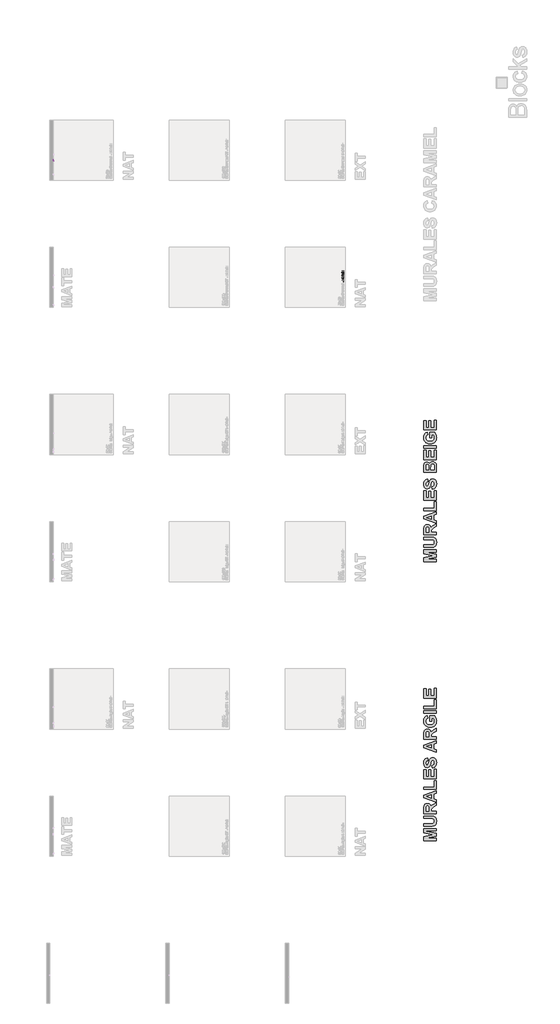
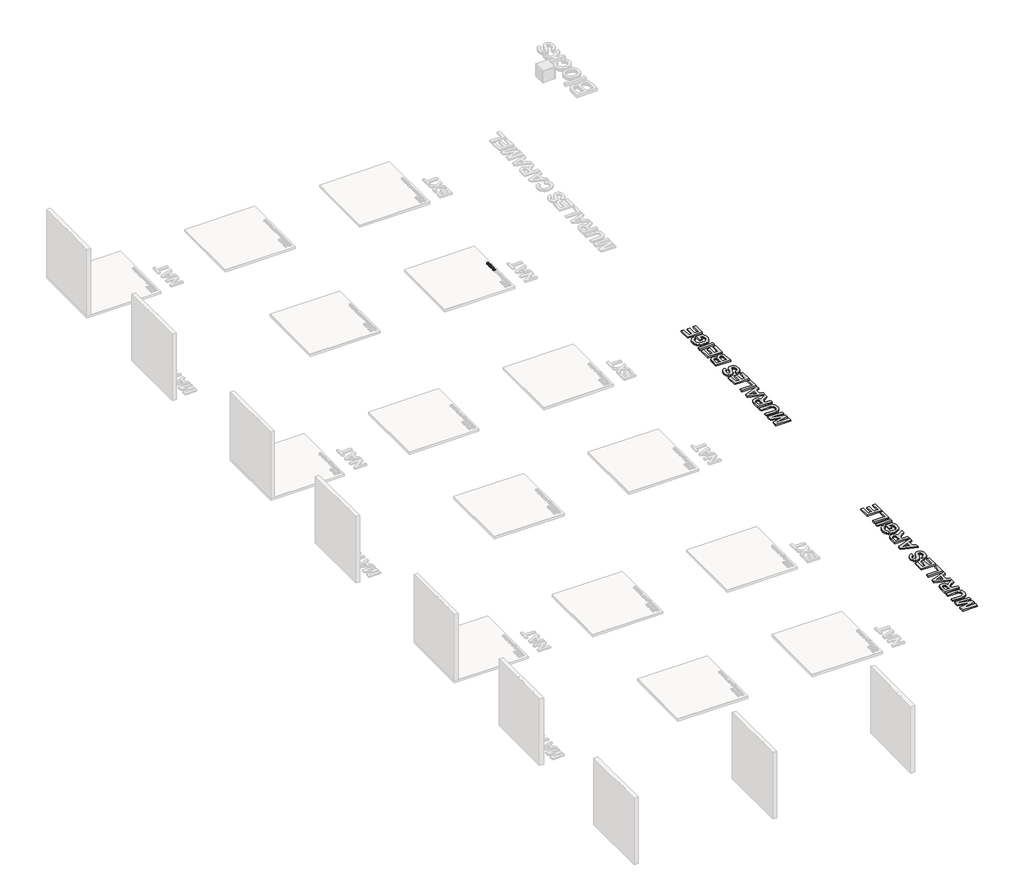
# One storey, part 17 of 21: 4 proxies.
"""IFC4 building model written with IfcOpenShell, lengths in millimetres."""

from ifc_helpers import new_model, si_unit, frame, origin, origin_with_axes, place, context, project, spatial, polyline, outline, extrude, element, save

model = new_model("IFC4")

# Units and contexts
model_context = context("Model", 3, world=origin())
ifc_project = project(units=[si_unit("LENGTHUNIT", "METRE", prefix="MILLI")], contexts=[model_context])

# Site, building, storey
site = spatial("IfcSite", under=ifc_project)
building = spatial("IfcBuilding", under=site)
storey = spatial("IfcBuildingStorey", under=building, Name="PORTOBELLO - SHOWROOM", Elevation=0.0)

# Proxies
placement = place(None, origin())
element("IfcBuildingElementProxy", 1, Name="10mm Arial", ObjectType="10mm Arial", at=placement, inside=storey, context=model_context, shape_type="SweptSolid", body=[
    extrude(outline(polyline([(34960.5312135, 2516.1895903), (34960.5312135, 2616.6459005), (34982.0645729, 2616.6459005), (35002.6659647, 2545.8408792), (35006.8352939, 2531.0520229), (35011.3234543, 2547.0671525), (35031.5324385, 2616.6459005), (35053.1393744, 2616.6459005), (35053.1393744, 2516.1895903), (35040.5823356, 2516.1895903), (35040.5823356, 2604.0888617), (35015.3456308, 2516.1895903), (34998.3494826, 2516.1895903), (34973.0882522, 2604.0888617), (34973.0882522, 2516.1895903), (34960.5312135, 2516.1895903)])), frame((15333.968651, 0.0, 0.0), z_axis=(1.0, 0.0, 0.0), x_axis=(0.0, 1.0, 0.0)), (0.0, 0.0, 1.0), 20.0),
    extrude(outline(polyline([(35120.6334578, 2516.1895903), (35120.6334578, 2528.8692564), (35110.7987458, 2518.1822845), (35097.9719269, 2514.6199605), (35086.1629148, 2517.1215581), (35078.02046, 2523.4000774), (35074.2803264, 2532.6461783), (35073.5445624, 2544.3203002), (35073.5445624, 2589.9621931), (35086.1016012, 2589.9621931), (35086.1016012, 2550.2309376), (35086.8618906, 2537.4286442), (35091.8282975, 2529.9115888), (35101.184763, 2527.1769993), (35111.6693998, 2529.9729024), (35118.5978441, 2537.5880597), (35120.6334578, 2551.5798383), (35120.6334578, 2589.9621931), (35133.1904965, 2589.9621931), (35133.1904965, 2516.1895903), (35120.6334578, 2516.1895903)])), frame((15333.968651, 0.0, 0.0), z_axis=(1.0, 0.0, 0.0), x_axis=(0.0, 1.0, 0.0)), (0.0, 0.0, 1.0), 20.0),
    extrude(outline(polyline([(35150.4564248, 2516.1895903), (35150.4564248, 2589.9621931), (35161.4438338, 2589.9621931), (35161.4438338, 2579.0483606), (35169.2429321, 2589.1038018), (35177.0910813, 2591.531823), (35189.697171, 2587.6567993), (35185.5033163, 2576.3996102), (35176.6741484, 2578.9747842), (35169.5740259, 2576.4977121), (35165.0490773, 2569.6305815), (35163.0134636, 2554.9643526), (35163.0134636, 2516.1895903), (35150.4564248, 2516.1895903)])), frame((15333.968651, 0.0, 0.0), z_axis=(1.0, 0.0, 0.0), x_axis=(0.0, 1.0, 0.0)), (0.0, 0.0, 1.0), 20.0),
    extrude(outline(polyline([(35244.6342156, 2525.6073694), (35232.4573216, 2517.0970326), (35219.0051033, 2514.6199605), (35208.5112694, 2516.1098826), (35200.7704191, 2520.5796488), (35195.9971502, 2527.3670716), (35194.4060605, 2535.8099634), (35196.8095562, 2545.7427773), (35203.1248638, 2552.9532644), (35211.9172435, 2557.0735427), (35222.7820251, 2558.9620036), (35244.5606392, 2563.2784857), (35244.6342156, 2566.0743889), (35241.1761249, 2575.3450152), (35227.2947109, 2578.9747842), (35214.5905193, 2576.5590258), (35208.5327292, 2567.9873753), (35195.9756904, 2569.5570051), (35201.4080812, 2581.8197383), (35212.3464392, 2589.0056999), (35228.9133917, 2591.531823), (35244.1314436, 2589.3000055), (35252.7276195, 2583.6959365), (35256.5781177, 2575.1733369), (35257.1912544, 2564.185928), (35257.1912544, 2548.5632059), (35257.8289165, 2526.7478036), (35260.3305141, 2516.1895903), (35247.7734753, 2516.1895903), (35244.6342156, 2525.6073694)]), holes=[polyline([(35244.6342156, 2550.721447), (35224.3761804, 2546.8709487), (35213.5727125, 2544.835335), (35208.6798819, 2541.5243971), (35206.9630993, 2536.6928802), (35210.7032329, 2529.899326), (35221.6783791, 2527.1769993), (35234.3825707, 2530.1813689), (35242.5740764, 2537.4531697), (35244.5606392, 2547.1652543), (35244.6342156, 2550.721447)])]), frame((15333.968651, 0.0, 0.0), z_axis=(1.0, 0.0, 0.0), x_axis=(0.0, 1.0, 0.0)), (0.0, 0.0, 1.0), 20.0),
    extrude(outline(polyline([(15353.968651, 35287.0142215), (15353.968651, 35274.4571827), (15333.968651, 35274.4571827), (15333.968651, 35287.0142215), (15353.968651, 35287.0142215)])), frame((0.0, 0.0, 2516.1895903), z_axis=(0.0, 0.0, 1.0), x_axis=(1.0, 0.0, 0.0)), (0.0, 0.0, 1.0), 100.4563101),
    extrude(outline(polyline([(35357.5004117, 2538.1644082), (35369.8121958, 2536.5947783), (35365.3761521, 2527.3180207), (35358.2974894, 2520.3834451), (35348.7356232, 2516.0608316), (35336.8499691, 2514.6199605), (35322.1162952, 2517.1062296), (35310.7793983, 2524.5650371), (35303.5505171, 2536.5120049), (35301.1408901, 2552.4627551), (35303.5750426, 2568.9499998), (35310.8775002, 2581.280178), (35322.0611129, 2588.9689117), (35336.1387305, 2591.531823), (35349.7779555, 2588.9750431), (35360.6764596, 2581.3047035), (35367.8225674, 2568.9990508), (35370.2046033, 2552.5363315), (35370.1310269, 2549.1518171), (35313.6979288, 2549.1518171), (35315.8714983, 2539.7524321), (35320.9206787, 2532.842382), (35328.2078079, 2528.5933449), (35337.0952237, 2527.1769993), (35349.4070078, 2529.8012242), (35357.5004117, 2538.1644082)]), holes=[polyline([(35313.6979288, 2561.7088559), (35357.6475645, 2561.7088559), (35352.6198439, 2573.0886723), (35345.2989922, 2577.5032562), (35336.0896796, 2578.9747842), (35320.6263731, 2574.2781574), (35315.7611337, 2568.7875186), (35313.6979288, 2561.7088559)])]), frame((15333.968651, 0.0, 0.0), z_axis=(1.0, 0.0, 0.0), x_axis=(0.0, 1.0, 0.0)), (0.0, 0.0, 1.0), 20.0),
    extrude(outline(polyline([(35494.2053611, 2551.8986693), (35506.7623999, 2548.6613078), (35500.9682585, 2534.0288014), (35491.8754418, 2523.3387638), (35479.9315397, 2516.7996613), (35465.5841419, 2514.6199605), (35451.0190806, 2516.2692981), (35439.4522575, 2521.2173109), (35430.5863014, 2529.2923207), (35424.1238411, 2540.3226492), (35418.8631285, 2567.1780349), (35420.3499849, 2581.8258696), (35424.8105541, 2594.4748789), (35432.0118442, 2604.7234582), (35441.7208632, 2612.1700029), (35453.2355696, 2616.7041485), (35465.853922, 2618.2155303), (35479.6219057, 2616.2596244), (35491.0047878, 2610.3919066), (35499.646949, 2600.9741275), (35505.1927701, 2588.3680378), (35492.6357313, 2585.3759309), (35482.3350354, 2600.814712), (35465.3634127, 2605.6584916), (35445.7185142, 2600.2874144), (35434.6207407, 2585.8664402), (35431.4201673, 2567.2025603), (35435.2093518, 2545.571099), (35447.0061012, 2531.7509987), (35464.3333431, 2527.1769993), (35474.8149143, 2528.7343664), (35483.549046, 2533.4064677), (35490.1433308, 2541.1442523), (35494.2053611, 2551.8986693)])), frame((15333.968651, 0.0, 0.0), z_axis=(1.0, 0.0, 0.0), x_axis=(0.0, 1.0, 0.0)), (0.0, 0.0, 1.0), 20.0),
    extrude(outline(polyline([(35569.5475938, 2525.6073694), (35557.3706997, 2517.0970326), (35543.9184814, 2514.6199605), (35533.4246475, 2516.1098826), (35525.6837972, 2520.5796488), (35520.9105283, 2527.3670716), (35519.3194387, 2535.8099634), (35521.7229344, 2545.7427773), (35528.038242, 2552.9532644), (35536.8306216, 2557.0735427), (35547.6954032, 2558.9620036), (35569.4740174, 2563.2784857), (35569.5475938, 2566.0743889), (35566.089503, 2575.3450152), (35552.208089, 2578.9747842), (35539.5038975, 2576.5590258), (35533.4461073, 2567.9873753), (35520.8890685, 2569.5570051), (35526.3214593, 2581.8197383), (35537.2598173, 2589.0056999), (35553.8267698, 2591.531823), (35569.0448217, 2589.3000055), (35577.6409976, 2583.6959365), (35581.4914959, 2575.1733369), (35582.1046325, 2564.185928), (35582.1046325, 2548.5632059), (35582.7422946, 2526.7478036), (35585.2438922, 2516.1895903), (35572.6868534, 2516.1895903), (35569.5475938, 2525.6073694)]), holes=[polyline([(35569.5475938, 2550.721447), (35549.2895586, 2546.8709487), (35538.4860906, 2544.835335), (35533.5932601, 2541.5243971), (35531.8764774, 2536.6928802), (35535.6166111, 2529.899326), (35546.5917573, 2527.1769993), (35559.2959488, 2530.1813689), (35567.4874546, 2537.4531697), (35569.4740174, 2547.1652543), (35569.5475938, 2550.721447)])]), frame((15333.968651, 0.0, 0.0), z_axis=(1.0, 0.0, 0.0), x_axis=(0.0, 1.0, 0.0)), (0.0, 0.0, 1.0), 20.0),
    extrude(outline(polyline([(35599.3705608, 2516.1895903), (35599.3705608, 2589.9621931), (35610.3579698, 2589.9621931), (35610.3579698, 2579.0483606), (35618.157068, 2589.1038018), (35626.0052173, 2591.531823), (35638.611307, 2587.6567993), (35634.4174522, 2576.3996102), (35625.5882844, 2578.9747842), (35618.4881618, 2576.4977121), (35613.9632133, 2569.6305815), (35611.9275996, 2554.9643526), (35611.9275996, 2516.1895903), (35599.3705608, 2516.1895903)])), frame((15333.968651, 0.0, 0.0), z_axis=(1.0, 0.0, 0.0), x_axis=(0.0, 1.0, 0.0)), (0.0, 0.0, 1.0), 20.0),
    extrude(outline(polyline([(35693.5483516, 2525.6073694), (35681.3714576, 2517.0970326), (35667.9192393, 2514.6199605), (35657.4254053, 2516.1098826), (35649.684555, 2520.5796488), (35644.9112861, 2527.3670716), (35643.3201965, 2535.8099634), (35645.7236922, 2545.7427773), (35652.0389998, 2552.9532644), (35660.8313795, 2557.0735427), (35671.6961611, 2558.9620036), (35693.4747752, 2563.2784857), (35693.5483516, 2566.0743889), (35690.0902608, 2575.3450152), (35676.2088469, 2578.9747842), (35663.5046553, 2576.5590258), (35657.4468651, 2567.9873753), (35644.8898264, 2569.5570051), (35650.3222172, 2581.8197383), (35661.2605751, 2589.0056999), (35677.8275277, 2591.531823), (35693.0455795, 2589.3000055), (35701.6417555, 2583.6959365), (35705.4922537, 2575.1733369), (35706.1053904, 2564.185928), (35706.1053904, 2548.5632059), (35706.7430525, 2526.7478036), (35709.2446501, 2516.1895903), (35696.6876113, 2516.1895903), (35693.5483516, 2525.6073694)]), holes=[polyline([(35693.5483516, 2550.721447), (35673.2903164, 2546.8709487), (35662.4868485, 2544.835335), (35657.5940179, 2541.5243971), (35655.8772353, 2536.6928802), (35659.6173689, 2529.899326), (35670.5925151, 2527.1769993), (35683.2967067, 2530.1813689), (35691.4882124, 2537.4531697), (35693.4747752, 2547.1652543), (35693.5483516, 2550.721447)])]), frame((15333.968651, 0.0, 0.0), z_axis=(1.0, 0.0, 0.0), x_axis=(0.0, 1.0, 0.0)), (0.0, 0.0, 1.0), 20.0),
    extrude(outline(polyline([(35723.3713187, 2516.1895903), (35723.3713187, 2589.9621931), (35735.9283574, 2589.9621931), (35735.9283574, 2577.8220873), (35744.5613216, 2587.7671639), (35756.8485802, 2591.531823), (35769.4301445, 2587.6935875), (35776.346326, 2576.9391705), (35786.1442498, 2587.8836598), (35798.5173476, 2591.531823), (35807.9565864, 2590.0143097), (35814.9371473, 2585.46177), (35819.2505637, 2577.7515766), (35820.6883691, 2566.7611019), (35820.6883691, 2516.1895903), (35808.1313304, 2516.1895903), (35808.1313304, 2561.3654994), (35806.9663707, 2571.8501362), (35802.7479905, 2577.0127469), (35795.5742916, 2578.9747842), (35783.2257193, 2573.9470636), (35779.5377023, 2567.4048954), (35778.3083633, 2557.8338322), (35778.3083633, 2516.1895903), (35765.7513245, 2516.1895903), (35765.7513245, 2562.7634509), (35762.8450568, 2574.9280822), (35753.3169131, 2578.9747842), (35744.0217613, 2576.2769829), (35737.8413438, 2568.3797827), (35735.9283574, 2553.3947228), (35735.9283574, 2516.1895903), (35723.3713187, 2516.1895903)])), frame((15333.968651, 0.0, 0.0), z_axis=(1.0, 0.0, 0.0), x_axis=(0.0, 1.0, 0.0)), (0.0, 0.0, 1.0), 20.0),
    extrude(outline(polyline([(35891.1745594, 2538.1644082), (35903.4863435, 2536.5947783), (35899.0502998, 2527.3180207), (35891.9716371, 2520.3834451), (35882.4097709, 2516.0608316), (35870.5241167, 2514.6199605), (35855.7904428, 2517.1062296), (35844.453546, 2524.5650371), (35837.2246648, 2536.5120049), (35834.8150377, 2552.4627551), (35837.2491903, 2568.9499998), (35844.5516479, 2581.280178), (35855.7352605, 2588.9689117), (35869.8128782, 2591.531823), (35883.4521032, 2588.9750431), (35894.3506073, 2581.3047035), (35901.496715, 2568.9990508), (35903.878751, 2552.5363315), (35903.8051746, 2549.1518171), (35847.3720765, 2549.1518171), (35849.545646, 2539.7524321), (35854.5948263, 2532.842382), (35861.8819555, 2528.5933449), (35870.7693714, 2527.1769993), (35883.0811555, 2529.8012242), (35891.1745594, 2538.1644082)]), holes=[polyline([(35847.3720765, 2561.7088559), (35891.3217122, 2561.7088559), (35886.2939916, 2573.0886723), (35878.9731399, 2577.5032562), (35869.7638273, 2578.9747842), (35854.3005208, 2574.2781574), (35849.4352814, 2568.7875186), (35847.3720765, 2561.7088559)])]), frame((15333.968651, 0.0, 0.0), z_axis=(1.0, 0.0, 0.0), x_axis=(0.0, 1.0, 0.0)), (0.0, 0.0, 1.0), 20.0),
    extrude(outline(polyline([(15353.968651, 35928.9928285), (15353.968651, 35916.4357897), (15333.968651, 35916.4357897), (15333.968651, 35928.9928285), (15353.968651, 35928.9928285)])), frame((0.0, 0.0, 2516.1895903), z_axis=(0.0, 0.0, 1.0), x_axis=(1.0, 0.0, 0.0)), (0.0, 0.0, 1.0), 100.4563101),
])
element("IfcBuildingElementProxy", 2, Name="10mm Arial Narrow", ObjectType="10mm Arial Narrow", at=placement, inside=storey, context=model_context, shape_type="SweptSolid", body=[
    extrude(outline(polyline([(28359.4625095, 30324.588476), (28258.7439058, 30324.588476), (28258.7439058, 30355.8853607), (28260.6222265, 30372.1810622), (28270.1026697, 30383.6540483), (28287.1217785, 30387.9437267), (28299.197604, 30386.1574183), (28308.8239978, 30380.7984931), (28315.1252562, 30371.0547043), (28317.2256757, 30356.1138051), (28317.2256757, 30334.3354376), (28359.4625095, 30334.3354376), (28359.4625095, 30324.588476)]), holes=[polyline([(28305.8542204, 30334.3354376), (28305.8542204, 30357.3067926), (28301.3234062, 30373.170988), (28287.6548155, 30378.1967651), (28277.4890391, 30375.7219506), (28271.6890892, 30369.7443218), (28270.115361, 30357.0783482), (28270.115361, 30334.3354376), (28305.8542204, 30334.3354376)])]), frame((0.0, 0.0, 18.0), z_axis=(0.0, 0.0, 1.0), x_axis=(1.0, 0.0, 0.0)), (0.0, 0.0, 1.0), 20.0),
    extrude(outline(polyline([(28322.9114033, 30396.0661948), (28306.3206278, 30398.0206637), (28294.368543, 30403.8840703), (28287.1439884, 30412.742637), (28284.7358035, 30423.6825861), (28287.1439884, 30434.4956217), (28294.368543, 30443.3795711), (28306.1302574, 30449.3191259), (28322.149922, 30451.2989775), (28339.3118085, 30449.3540271), (28351.4542637, 30443.5191761), (28358.6788183, 30434.6701279), (28361.0870031, 30423.6825861), (28358.6724726, 30412.821958), (28351.428881, 30403.9475271), (28339.4704505, 30398.0365278), (28322.9114033, 30396.0661948)]), holes=[polyline([(28322.8860206, 30405.8131564), (28335.437772, 30407.1171933), (28344.3090301, 30411.0293039), (28349.5822886, 30416.8705006), (28351.3400415, 30423.961796), (28349.5664244, 30430.6818691), (28344.2455733, 30436.3739424), (28335.358451, 30440.2574975), (28322.8860206, 30441.5520158), (28310.3723433, 30440.247979), (28301.5137766, 30436.3358684), (28296.240518, 30430.4946716), (28294.4827652, 30423.4033763), (28296.2500365, 30416.6357105), (28301.5518506, 30410.9531557), (28310.4199359, 30407.0981563), (28322.8860206, 30405.8131564)])]), frame((0.0, 0.0, 18.0), z_axis=(0.0, 0.0, 1.0), x_axis=(1.0, 0.0, 0.0)), (0.0, 0.0, 1.0), 20.0),
    extrude(outline(polyline([(28351.3400415, 30522.7766963), (28361.0870031, 30524.4011899), (28361.0870031, 30517.0402032), (28358.9675466, 30508.7654389), (28353.1675968, 30504.4503777), (28338.5217716, 30503.282773), (28296.1072588, 30503.282773), (28296.1072588, 30495.1603049), (28292.8582716, 30495.1603049), (28297.7317524, 30493.5358113), (28296.1072588, 30485.9717629), (28298.429777, 30479.8926033), (28304.9150601, 30476.0217396), (28320.3223666, 30474.041888), (28359.4625095, 30474.041888), (28359.4625095, 30464.2949264), (28286.3602971, 30464.2949264), (28286.3602971, 30474.041888), (28296.0564934, 30474.041888), (28286.9694822, 30480.2860353), (28284.7358035, 30486.6824789), (28286.3602971, 30495.1603049), (28286.3602971, 30503.282773), (28270.115361, 30503.282773), (28261.992893, 30513.0297346), (28286.3602971, 30513.0297346), (28286.3602971, 30522.7766963), (28296.1072588, 30522.7766963), (28296.1072588, 30513.0297346), (28340.7554503, 30513.0297346), (28348.7510048, 30513.8927468), (28351.3400415, 30518.5124006), (28351.3400415, 30522.7766963)])), frame((0.0, 0.0, 18.0), z_axis=(0.0, 0.0, 1.0), x_axis=(1.0, 0.0, 0.0)), (0.0, 0.0, 1.0), 20.0),
    extrude(outline(polyline([(28322.9114033, 30529.2746707), (28306.3206278, 30531.2291396), (28294.368543, 30537.0925462), (28287.1439884, 30545.9511129), (28284.7358035, 30556.8910621), (28287.1439884, 30567.7040976), (28294.368543, 30576.5880471), (28306.1302574, 30582.5276018), (28322.149922, 30584.5074534), (28339.3118085, 30582.5625031), (28351.4542637, 30576.727652), (28358.6788183, 30567.8786038), (28361.0870031, 30556.8910621), (28358.6724726, 30546.0304339), (28351.428881, 30537.156003), (28339.4704505, 30531.2450038), (28322.9114033, 30529.2746707)]), holes=[polyline([(28322.8860206, 30539.0216324), (28335.437772, 30540.3256692), (28344.3090301, 30544.2377798), (28349.5822886, 30550.0789766), (28351.3400415, 30557.1702719), (28349.5664244, 30563.8903451), (28344.2455733, 30569.5824184), (28335.358451, 30573.4659734), (28322.8860206, 30574.7604918), (28310.3723433, 30573.4564549), (28301.5137766, 30569.5443443), (28296.240518, 30563.7031476), (28294.4827652, 30556.6118522), (28296.2500365, 30549.8441865), (28301.5518506, 30544.1616317), (28310.4199359, 30540.3066322), (28322.8860206, 30539.0216324)])]), frame((0.0, 0.0, 18.0), z_axis=(0.0, 0.0, 1.0), x_axis=(1.0, 0.0, 0.0)), (0.0, 0.0, 1.0), 20.0),
    extrude(outline(polyline([(28359.4625095, 30607.2503639), (28359.4625095, 30597.5034023), (28258.7439058, 30597.5034023), (28258.7439058, 30607.2503639), (28294.1527899, 30607.2503639), (28287.0710131, 30614.6494247), (28284.7358035, 30623.850658), (28288.9366425, 30636.7323847), (28301.6660729, 30646.0097661), (28322.3529837, 30649.4871978), (28338.8073271, 30647.5549388), (28351.0100662, 30641.7581618), (28358.5677689, 30633.3850394), (28361.0870031, 30623.7237444), (28358.4725837, 30614.3829062), (28350.7054737, 30607.2503639), (28359.4625095, 30607.2503639)]), holes=[polyline([(28322.3529837, 30607.2503639), (28339.6005369, 30609.3317464), (28348.33219, 30615.2205357), (28351.3400415, 30623.672979), (28349.5505602, 30629.6157066), (28344.1821165, 30634.8540639), (28322.7591071, 30639.7402361), (28301.3234062, 30635.0317429), (28296.1929254, 30629.7870399), (28294.4827652, 30623.4699173), (28296.2722464, 30617.4922885), (28301.6406901, 30612.1999929), (28322.3529837, 30607.2503639)])]), frame((0.0, 0.0, 18.0), z_axis=(0.0, 0.0, 1.0), x_axis=(1.0, 0.0, 0.0)), (0.0, 0.0, 1.0), 20.0),
    extrude(outline(polyline([(28336.719599, 30701.4709933), (28338.3440926, 30711.2179549), (28348.2306592, 30707.5184245), (28355.3505101, 30701.6994377), (28359.6528799, 30693.9957844), (28361.0870031, 30684.6422548), (28358.6724726, 30673.0487008), (28351.428881, 30663.9045785), (28339.6227468, 30657.9650238), (28323.5205884, 30655.9851722), (28306.8536647, 30657.9745423), (28294.6731355, 30663.9426526), (28287.2201365, 30672.9566884), (28284.7358035, 30684.0838351), (28287.1344699, 30694.7667843), (28294.3304689, 30703.5143016), (28306.0699735, 30709.3491527), (28322.0991565, 30711.294103), (28325.3481437, 30711.2179549), (28325.3481437, 30665.7321339), (28344.7913016, 30671.7351454), (28349.7028565, 30677.6651816), (28351.3400415, 30684.7691683), (28347.6849309, 30694.9476361), (28336.719599, 30701.4709933)]), holes=[polyline([(28315.6011821, 30666.3920844), (28315.6011821, 30701.4709933), (28301.3360976, 30697.2066975), (28296.1960983, 30691.381365), (28294.4827652, 30684.1599832), (28300.1938755, 30671.9508985), (28315.6011821, 30666.3920844)])]), frame((0.0, 0.0, 18.0), z_axis=(0.0, 0.0, 1.0), x_axis=(1.0, 0.0, 0.0)), (0.0, 0.0, 1.0), 20.0),
    extrude(outline(polyline([(28359.4625095, 30724.2139038), (28258.7439058, 30724.2139038), (28258.7439058, 30733.9608654), (28359.4625095, 30733.9608654), (28359.4625095, 30724.2139038)])), frame((0.0, 0.0, 18.0), z_axis=(0.0, 0.0, 1.0), x_axis=(1.0, 0.0, 0.0)), (0.0, 0.0, 1.0), 20.0),
    extrude(outline(polyline([(28359.4625095, 30750.2058015), (28258.7439058, 30750.2058015), (28258.7439058, 30759.9527632), (28359.4625095, 30759.9527632), (28359.4625095, 30750.2058015)])), frame((0.0, 0.0, 18.0), z_axis=(0.0, 0.0, 1.0), x_axis=(1.0, 0.0, 0.0)), (0.0, 0.0, 1.0), 20.0),
    extrude(outline(polyline([(28322.9114033, 30771.3242184), (28306.3206278, 30773.2786873), (28294.368543, 30779.1420939), (28287.1439884, 30788.0006606), (28284.7358035, 30798.9406098), (28287.1439884, 30809.7536454), (28294.368543, 30818.6375948), (28306.1302574, 30824.5771496), (28322.149922, 30826.5570011), (28339.3118085, 30824.6120508), (28351.4542637, 30818.7771997), (28358.6788183, 30809.9281515), (28361.0870031, 30798.9406098), (28358.6724726, 30788.0799816), (28351.428881, 30779.2055507), (28339.4704505, 30773.2945515), (28322.9114033, 30771.3242184)]), holes=[polyline([(28322.8860206, 30781.0711801), (28335.437772, 30782.375217), (28344.3090301, 30786.2873275), (28349.5822886, 30792.1285243), (28351.3400415, 30799.2198196), (28349.5664244, 30805.9398928), (28344.2455733, 30811.6319661), (28335.358451, 30815.5155211), (28322.8860206, 30816.8100395), (28310.3723433, 30815.5060026), (28301.5137766, 30811.593892), (28296.240518, 30805.7526953), (28294.4827652, 30798.6614), (28296.2500365, 30791.8937342), (28301.5518506, 30786.2111794), (28310.4199359, 30782.3561799), (28322.8860206, 30781.0711801)])]), frame((0.0, 0.0, 18.0), z_axis=(0.0, 0.0, 1.0), x_axis=(1.0, 0.0, 0.0)), (0.0, 0.0, 1.0), 20.0),
])
element("IfcBuildingElementProxy", 3, Name="550mm Arial", ObjectType="550mm Arial", at=placement, inside=storey, context=model_context, shape_type="SweptSolid", body=[
    extrude(outline(polyline([(32506.24187, 5273.3939829), (31945.0992, 5273.3939829), (31945.0992, 5456.2663709), (32327.8229952, 5545.0582914), (31945.0992, 5633.5718673), (31945.0992, 5816.7225999), (32506.24187, 5816.7225999), (32506.24187, 5709.8382818), (32064.5090241, 5705.3847686), (32506.24187, 5607.6858215), (32506.24187, 5482.7091059), (32064.5090241, 5384.7318143), (32506.24187, 5380.278301), (32506.24187, 5273.3939829)])), origin_with_axes(), (0.0, 0.0, 1.0), 50.0),
    extrude(outline(polyline([(31945.0992, 5923.606918), (31945.0992, 6030.4912361), (32247.798929, 6030.4912361), (32307.2254964, 6031.6394075), (32341.3227073, 6035.0839216), (32372.2015589, 6048.4792545), (32396.3653477, 6072.799612), (32405.4680852, 6089.056675), (32411.9700406, 6108.0449942), (32417.1716049, 6154.2154012), (32412.2657817, 6200.3336185), (32406.1335027, 6218.5260462), (32397.5483121, 6233.4740198), (32375.6808662, 6254.8195697), (32349.3251139, 6265.5532325), (32311.2788894, 6269.624022), (32254.3400265, 6270.9809518), (31945.0992, 6270.9809518), (31945.0992, 6377.8652699), (32239.4485916, 6377.8652699), (32325.6310317, 6375.534134), (32382.100188, 6368.5407265), (32420.4943433, 6355.284566), (32452.4517802, 6334.1651711), (32478.2508433, 6304.8868007), (32498.1698772, 6267.1537138), (32510.9041416, 6218.7739468), (32515.1488965, 6157.5555361), (32510.5214179, 6085.8470141), (32504.7370696, 6057.3775827), (32496.638982, 6033.831371), (32475.3456218, 5996.0808876), (32448.48537, 5967.1678445), (32418.1110178, 5946.8486903), (32386.2753567, 5934.8798734), (32326.6400308, 5926.4251568), (32244.0412771, 5923.606918), (31945.0992, 5923.606918)])), origin_with_axes(), (0.0, 0.0, 1.0), 50.0),
    extrude(outline(polyline([(32506.24187, 6484.749588), (31945.0992, 6484.749588), (31945.0992, 6720.7857904), (31948.8916449, 6797.6784802), (31960.2689795, 6850.2160194), (31969.3325748, 6869.3870022), (31981.3535813, 6886.5399868), (31996.3319989, 6901.6749733), (32014.2678277, 6914.7919615), (32034.3869218, 6925.386452), (32055.9151352, 6932.9539453), (32078.8524682, 6937.4944412), (32103.1989205, 6939.0079398), (32133.5471778, 6936.8203254), (32161.1293859, 6930.2574822), (32185.9455447, 6919.3194101), (32207.9956542, 6904.0061091), (32226.7491202, 6884.3349759), (32241.6753482, 6860.3234069), (32252.7743383, 6831.9714021), (32260.0460904, 6799.2789615), (32282.3832428, 6830.2795889), (32306.8079796, 6855.3653941), (32342.1925341, 6881.321026), (32397.4091398, 6914.9311338), (32506.24187, 6983.5430724), (32506.24187, 6858.705529), (32378.0641916, 6777.4289121), (32302.0065356, 6713.6184175), (32288.8025647, 6695.9087437), (32280.5044169, 6677.1552778), (32276.1204898, 6652.2608345), (32274.6591808, 6616.1282289), (32274.6591808, 6591.6339061), (32506.24187, 6591.6339061), (32506.24187, 6484.749588)]), holes=[polyline([(32176.6818892, 6591.6339061), (32176.6818892, 6679.7299651), (32175.0640113, 6749.2639201), (32170.2103777, 6786.6838693), (32161.4077304, 6805.7156799), (32147.9428115, 6820.0852187), (32130.1809481, 6829.114021), (32108.4874675, 6832.1236218), (32084.4628511, 6828.1572115), (32065.5528163, 6816.2579808), (32052.209673, 6797.121791), (32044.8857313, 6771.4445037), (32043.0764916, 6684.6009952), (32043.0764916, 6591.6339061), (32176.6818892, 6591.6339061)])]), origin_with_axes(), (0.0, 0.0, 1.0), 50.0),
    extrude(outline(polyline([(32506.24187, 7517.9646628), (32506.24187, 7405.6526255), (32381.5434989, 7361.6741821), (32381.5434989, 7149.853958), (32506.24187, 7106.4322037), (32506.24187, 6992.4500989), (31945.0992, 7197.033364), (31945.0992, 7311.1546411), (32506.24187, 7517.9646628)]), holes=[polyline([(32283.5662073, 7327.437799), (32078.7045976, 7255.2073809), (32283.5662073, 7183.9511688), (32283.5662073, 7327.437799)])]), origin_with_axes(), (0.0, 0.0, 1.0), 50.0),
    extrude(outline(polyline([(32506.24187, 7571.4068219), (31945.0992, 7571.4068219), (31945.0992, 7678.29114), (32408.2645784, 7678.29114), (32408.2645784, 7963.3159882), (32506.24187, 7963.3159882), (32506.24187, 7571.4068219)])), origin_with_axes(), (0.0, 0.0, 1.0), 50.0),
    extrude(outline(polyline([(32506.24187, 8043.4792268), (31945.0992, 8043.4792268), (31945.0992, 8462.1094726), (32043.0764916, 8462.1094726), (32043.0764916, 8150.3635449), (32167.7748627, 8150.3635449), (32167.7748627, 8444.2954196), (32265.7521543, 8444.2954196), (32265.7521543, 8150.3635449), (32408.2645784, 8150.3635449), (32408.2645784, 8471.0164991), (32506.24187, 8471.0164991), (32506.24187, 8043.4792268)])), origin_with_axes(), (0.0, 0.0, 1.0), 50.0),
    extrude(outline(polyline([(32319.1943133, 8533.3656847), (32310.2872868, 8640.2500028), (32336.0167638, 8646.7215142), (32358.0929681, 8655.8372992), (32376.5158999, 8667.5973576), (32391.2855591, 8682.0016895), (32402.6107041, 8699.0937863), (32410.7000934, 8718.9171393), (32415.553727, 8741.4717484), (32417.1716049, 8766.7576137), (32415.7407398, 8793.3308226), (32411.4481445, 8816.4073278), (32404.293819, 8835.9871293), (32394.2777633, 8852.0702269), (32382.3480887, 8864.6131295), (32369.4529062, 8873.5723456), (32355.5922161, 8878.9478753), (32340.7660181, 8880.7397185), (32322.5866379, 8877.7649108), (32307.2950826, 8868.8404878), (32294.3694562, 8852.4703473), (32283.2878627, 8827.1583872), (32259.4894012, 8734.4696426), (32247.8772134, 8691.4480087), (32234.8906991, 8655.3501962), (32220.5298585, 8626.176205), (32204.7946916, 8603.9260353), (32180.4308427, 8580.8495301), (32153.5444961, 8564.3663121), (32124.1356517, 8554.4763813), (32092.2043096, 8551.1797377), (32050.8701398, 8557.2337323), (32012.3194157, 8575.395716), (31994.8445951, 8588.8432385), (31979.5791346, 8604.9698275), (31966.5230343, 8623.7754831), (31955.676294, 8645.2602052), (31941.0632036, 8695.6057808), (31936.1921735, 8755.3454859), (31939.227869, 8804.764696), (31948.3349557, 8847.6689033), (31963.5134335, 8884.0581078), (31984.7633024, 8913.9323095), (32011.0755633, 8937.3871893), (32041.4412172, 8954.5184283), (32075.8602639, 8965.3260264), (32114.3327036, 8969.8099836), (32114.3327036, 8862.9256655), (32077.6086158, 8851.1134174), (32063.7479256, 8841.9845851), (32052.888138, 8830.7072805), (32044.6987186, 8816.8117973), (32038.8491333, 8799.8284289), (32034.1694651, 8756.5980365), (32039.1448744, 8711.088698), (32045.3641361, 8692.5091974), (32054.0711024, 8676.7131426), (32069.0321235, 8662.7263275), (32088.3074856, 8658.0640558), (32106.5042624, 8662.3088106), (32121.8480072, 8675.0430751), (32130.7593829, 8689.6779111), (32139.8186291, 8712.0107144), (32158.3807332, 8779.7702227), (32177.6908883, 8852.0876235), (32197.9056633, 8902.7289402), (32222.3825896, 8938.2178739), (32254.4791988, 8965.0781257), (32273.4849146, 8974.9419617), (32294.5956112, 8981.9875589), (32343.131947, 8987.6240366), (32366.686857, 8985.9583183), (32389.4763193, 8980.9611632), (32411.5003341, 8972.6325716), (32432.7589013, 8960.9725432), (32452.2952114, 8946.2637719), (32469.1524549, 8928.7889513), (32483.3306319, 8908.5480815), (32494.8297422, 8885.5411625), (32503.7193722, 8859.6507676), (32510.0691079, 8830.7594701), (32515.1488965, 8763.9741679), (32512.0218691, 8714.0287126), (32502.640787, 8670.2416311), (32487.0056501, 8632.6129234), (32465.1164585, 8601.1425895), (32437.2341602, 8575.6131727), (32403.6197032, 8555.8072163), (32364.2730876, 8541.7247203), (32319.1943133, 8533.3656847)])), origin_with_axes(), (0.0, 0.0, 1.0), 50.0),
    extrude(outline(polyline([(32506.24187, 9762.5353427), (32506.24187, 9650.2233054), (32381.5434989, 9606.244862), (32381.5434989, 9394.4246379), (32506.24187, 9351.0028836), (32506.24187, 9237.0207788), (31945.0992, 9441.6040439), (31945.0992, 9555.725321), (32506.24187, 9762.5353427)]), holes=[polyline([(32283.5662073, 9572.0084789), (32078.7045976, 9499.7780608), (32283.5662073, 9428.5218487), (32283.5662073, 9572.0084789)])]), origin_with_axes(), (0.0, 0.0, 1.0), 50.0),
    extrude(outline(polyline([(32506.24187, 9815.9775018), (31945.0992, 9815.9775018), (31945.0992, 10052.0137042), (31948.8916449, 10128.906394), (31960.2689795, 10181.4439332), (31969.3325748, 10200.614916), (31981.3535813, 10217.7679007), (31996.3319989, 10232.9028871), (32014.2678277, 10246.0198754), (32034.3869218, 10256.6143659), (32055.9151352, 10264.1818591), (32078.8524682, 10268.722355), (32103.1989205, 10270.2358537), (32133.5471778, 10268.0482393), (32161.1293859, 10261.485396), (32185.9455447, 10250.5473239), (32207.9956542, 10235.2340229), (32226.7491202, 10215.5628897), (32241.6753482, 10191.5513207), (32252.7743383, 10163.1993159), (32260.0460904, 10130.5068753), (32282.3832428, 10161.5075028), (32306.8079796, 10186.5933079), (32342.1925341, 10212.5489398), (32397.4091398, 10246.1590476), (32506.24187, 10314.7709862), (32506.24187, 10189.9334428), (32378.0641916, 10108.6568259), (32302.0065356, 10044.8463313), (32288.8025647, 10027.1366575), (32280.5044169, 10008.3831916), (32276.1204898, 9983.4887484), (32274.6591808, 9947.3561428), (32274.6591808, 9922.8618199), (32506.24187, 9922.8618199), (32506.24187, 9815.9775018)]), holes=[polyline([(32176.6818892, 9922.8618199), (32176.6818892, 10010.9578789), (32175.0640113, 10080.4918339), (32170.2103777, 10117.9117832), (32161.4077304, 10136.9435937), (32147.9428115, 10151.3131326), (32130.1809481, 10160.3419348), (32108.4874675, 10163.3515356), (32084.4628511, 10159.3851253), (32065.5528163, 10147.4858946), (32052.209673, 10128.3497049), (32044.8857313, 10102.6724175), (32043.0764916, 10015.8289091), (32043.0764916, 9922.8618199), (32176.6818892, 9922.8618199)])]), origin_with_axes(), (0.0, 0.0, 1.0), 50.0),
    extrude(outline(polyline([(32301.3802603, 10635.4239405), (32203.4029687, 10635.4239405), (32203.4029687, 10875.9136562), (32427.1920097, 10875.9136562), (32444.1318868, 10856.4121392), (32460.0192734, 10832.979005), (32488.6365754, 10774.3178851), (32500.2357159, 10740.9513288), (32508.5208162, 10707.376014), (32513.4918764, 10673.5919408), (32515.1488965, 10639.5991092), (32512.8438554, 10597.6995519), (32505.9287323, 10558.5660438), (32494.4035271, 10522.198585), (32478.2682398, 10488.5971754), (32457.8490555, 10458.3793921), (32433.4721593, 10432.1628121), (32405.137551, 10409.9474355), (32372.8452308, 10391.7332621), (32337.8216544, 10377.5463869), (32301.2932776, 10367.4129046), (32263.2601005, 10361.3328152), (32223.7221229, 10359.3061188), (32181.2354325, 10361.5981124), (32141.1755589, 10368.4740933), (32103.5425021, 10379.9340615), (32068.3362621, 10395.978017), (32036.3222864, 10416.4406926), (32008.2660227, 10441.1568213), (31984.167471, 10470.1264031), (31964.0266313, 10503.3494381), (31951.849056, 10531.9319469), (31943.1507879, 10563.8197977), (31937.9318271, 10599.0129903), (31936.1921735, 10637.5115248), (31939.0017141, 10686.7828643), (31947.4303358, 10730.3568382), (31961.4780388, 10768.2334466), (31981.1448229, 10800.4126893), (32005.7696198, 10827.1294197), (32034.6913611, 10848.618491), (32067.9100469, 10864.8799031), (32105.4256771, 10875.9136562), (32123.2397301, 10769.0293381), (32103.6642778, 10761.400957), (32086.2720908, 10751.0413197), (32071.0631691, 10737.9504263), (32058.0375127, 10722.1282766), (32047.5952418, 10703.870612), (32040.136477, 10683.4731733), (32035.661218, 10660.9359607), (32034.1694651, 10636.2589742), (32037.0833849, 10599.2826366), (32045.8251443, 10566.2901058), (32060.3947433, 10537.2813818), (32080.7921819, 10512.2564646), (32106.9304775, 10492.1025774), (32138.7226473, 10477.7069438), (32176.1686914, 10469.0695636), (32219.2686097, 10466.1904368), (32265.6521242, 10469.052167), (32305.8511701, 10477.6373576), (32339.8657474, 10491.9460086), (32367.6958561, 10511.97812), (32389.3414962, 10536.6551065), (32404.8026677, 10564.8983829), (32414.0793706, 10596.7079493), (32417.1716049, 10632.0838055), (32413.7792803, 10668.7731003), (32403.6023067, 10705.6363604), (32388.589096, 10739.9597262), (32370.6880603, 10769.0293381), (32301.3802603, 10769.0293381), (32301.3802603, 10635.4239405)])), origin_with_axes(), (0.0, 0.0, 1.0), 50.0),
    extrude(outline(polyline([(32506.24187, 10982.7979743), (31945.0992, 10982.7979743), (31945.0992, 11089.6822924), (32506.24187, 11089.6822924), (32506.24187, 10982.7979743)])), origin_with_axes(), (0.0, 0.0, 1.0), 50.0),
    extrude(outline(polyline([(32506.24187, 11196.5666105), (31945.0992, 11196.5666105), (31945.0992, 11303.4509286), (32408.2645784, 11303.4509286), (32408.2645784, 11588.4757768), (32506.24187, 11588.4757768), (32506.24187, 11196.5666105)])), origin_with_axes(), (0.0, 0.0, 1.0), 50.0),
    extrude(outline(polyline([(32506.24187, 11668.6390154), (31945.0992, 11668.6390154), (31945.0992, 12087.2692612), (32043.0764916, 12087.2692612), (32043.0764916, 11775.5233335), (32167.7748627, 11775.5233335), (32167.7748627, 12069.4552082), (32265.7521543, 12069.4552082), (32265.7521543, 11775.5233335), (32408.2645784, 11775.5233335), (32408.2645784, 12096.1762877), (32506.24187, 12096.1762877), (32506.24187, 11668.6390154)])), origin_with_axes(), (0.0, 0.0, 1.0), 50.0),
])
element("IfcBuildingElementProxy", 4, Name="550mm Arial", ObjectType="550mm Arial", at=placement, inside=storey, context=model_context, shape_type="SweptSolid", body=[
    extrude(outline(polyline([(32506.24187, 17773.3939829), (31945.0992, 17773.3939829), (31945.0992, 17956.2663709), (32327.8229952, 18045.0582914), (31945.0992, 18133.5718673), (31945.0992, 18316.7225999), (32506.24187, 18316.7225999), (32506.24187, 18209.8382818), (32064.5090241, 18205.3847686), (32506.24187, 18107.6858215), (32506.24187, 17982.7091059), (32064.5090241, 17884.7318143), (32506.24187, 17880.278301), (32506.24187, 17773.3939829)])), origin_with_axes(), (0.0, 0.0, 1.0), 50.0),
    extrude(outline(polyline([(31945.0992, 18423.606918), (31945.0992, 18530.4912361), (32247.798929, 18530.4912361), (32307.2254964, 18531.6394075), (32341.3227073, 18535.0839216), (32372.2015589, 18548.4792545), (32396.3653477, 18572.799612), (32405.4680852, 18589.056675), (32411.9700406, 18608.0449942), (32417.1716049, 18654.2154012), (32412.2657817, 18700.3336185), (32406.1335027, 18718.5260462), (32397.5483121, 18733.4740198), (32375.6808662, 18754.8195697), (32349.3251139, 18765.5532325), (32311.2788894, 18769.624022), (32254.3400265, 18770.9809518), (31945.0992, 18770.9809518), (31945.0992, 18877.8652699), (32239.4485916, 18877.8652699), (32325.6310317, 18875.534134), (32382.100188, 18868.5407265), (32420.4943433, 18855.284566), (32452.4517802, 18834.1651711), (32478.2508433, 18804.8868007), (32498.1698772, 18767.1537138), (32510.9041416, 18718.7739468), (32515.1488965, 18657.5555361), (32510.5214179, 18585.8470141), (32504.7370696, 18557.3775827), (32496.638982, 18533.831371), (32475.3456218, 18496.0808876), (32448.48537, 18467.1678445), (32418.1110178, 18446.8486903), (32386.2753567, 18434.8798734), (32326.6400308, 18426.4251568), (32244.0412771, 18423.606918), (31945.0992, 18423.606918)])), origin_with_axes(), (0.0, 0.0, 1.0), 50.0),
    extrude(outline(polyline([(32506.24187, 18984.749588), (31945.0992, 18984.749588), (31945.0992, 19220.7857904), (31948.8916449, 19297.6784802), (31960.2689795, 19350.2160194), (31969.3325748, 19369.3870022), (31981.3535813, 19386.5399868), (31996.3319989, 19401.6749733), (32014.2678277, 19414.7919615), (32034.3869218, 19425.386452), (32055.9151352, 19432.9539453), (32078.8524682, 19437.4944412), (32103.1989205, 19439.0079398), (32133.5471778, 19436.8203254), (32161.1293859, 19430.2574822), (32185.9455447, 19419.3194101), (32207.9956542, 19404.0061091), (32226.7491202, 19384.3349759), (32241.6753482, 19360.3234069), (32252.7743383, 19331.9714021), (32260.0460904, 19299.2789615), (32282.3832428, 19330.2795889), (32306.8079796, 19355.3653941), (32342.1925341, 19381.321026), (32397.4091398, 19414.9311338), (32506.24187, 19483.5430724), (32506.24187, 19358.705529), (32378.0641916, 19277.4289121), (32302.0065356, 19213.6184175), (32288.8025647, 19195.9087437), (32280.5044169, 19177.1552778), (32276.1204898, 19152.2608345), (32274.6591808, 19116.1282289), (32274.6591808, 19091.6339061), (32506.24187, 19091.6339061), (32506.24187, 18984.749588)]), holes=[polyline([(32176.6818892, 19091.6339061), (32176.6818892, 19179.7299651), (32175.0640113, 19249.2639201), (32170.2103777, 19286.6838693), (32161.4077304, 19305.7156799), (32147.9428115, 19320.0852187), (32130.1809481, 19329.114021), (32108.4874675, 19332.1236218), (32084.4628511, 19328.1572115), (32065.5528163, 19316.2579808), (32052.209673, 19297.121791), (32044.8857313, 19271.4445037), (32043.0764916, 19184.6009952), (32043.0764916, 19091.6339061), (32176.6818892, 19091.6339061)])]), origin_with_axes(), (0.0, 0.0, 1.0), 50.0),
    extrude(outline(polyline([(32506.24187, 20017.9646628), (32506.24187, 19905.6526255), (32381.5434989, 19861.6741821), (32381.5434989, 19649.853958), (32506.24187, 19606.4322037), (32506.24187, 19492.4500989), (31945.0992, 19697.033364), (31945.0992, 19811.1546411), (32506.24187, 20017.9646628)]), holes=[polyline([(32283.5662073, 19827.437799), (32078.7045976, 19755.2073809), (32283.5662073, 19683.9511688), (32283.5662073, 19827.437799)])]), origin_with_axes(), (0.0, 0.0, 1.0), 50.0),
    extrude(outline(polyline([(32506.24187, 20071.4068219), (31945.0992, 20071.4068219), (31945.0992, 20178.29114), (32408.2645784, 20178.29114), (32408.2645784, 20463.3159882), (32506.24187, 20463.3159882), (32506.24187, 20071.4068219)])), origin_with_axes(), (0.0, 0.0, 1.0), 50.0),
    extrude(outline(polyline([(32506.24187, 20543.4792268), (31945.0992, 20543.4792268), (31945.0992, 20962.1094726), (32043.0764916, 20962.1094726), (32043.0764916, 20650.3635449), (32167.7748627, 20650.3635449), (32167.7748627, 20944.2954196), (32265.7521543, 20944.2954196), (32265.7521543, 20650.3635449), (32408.2645784, 20650.3635449), (32408.2645784, 20971.0164991), (32506.24187, 20971.0164991), (32506.24187, 20543.4792268)])), origin_with_axes(), (0.0, 0.0, 1.0), 50.0),
    extrude(outline(polyline([(32319.1943133, 21033.3656847), (32310.2872868, 21140.2500028), (32336.0167638, 21146.7215142), (32358.0929681, 21155.8372992), (32376.5158999, 21167.5973576), (32391.2855591, 21182.0016895), (32402.6107041, 21199.0937863), (32410.7000934, 21218.9171393), (32415.553727, 21241.4717484), (32417.1716049, 21266.7576137), (32415.7407398, 21293.3308226), (32411.4481445, 21316.4073278), (32404.293819, 21335.9871293), (32394.2777633, 21352.0702269), (32382.3480887, 21364.6131295), (32369.4529062, 21373.5723456), (32355.5922161, 21378.9478753), (32340.7660181, 21380.7397185), (32322.5866379, 21377.7649108), (32307.2950826, 21368.8404878), (32294.3694562, 21352.4703473), (32283.2878627, 21327.1583872), (32259.4894012, 21234.4696426), (32247.8772134, 21191.4480087), (32234.8906991, 21155.3501962), (32220.5298585, 21126.176205), (32204.7946916, 21103.9260353), (32180.4308427, 21080.8495301), (32153.5444961, 21064.3663121), (32124.1356517, 21054.4763813), (32092.2043096, 21051.1797377), (32050.8701398, 21057.2337323), (32012.3194157, 21075.395716), (31994.8445951, 21088.8432385), (31979.5791346, 21104.9698275), (31966.5230343, 21123.7754831), (31955.676294, 21145.2602052), (31941.0632036, 21195.6057808), (31936.1921735, 21255.3454859), (31939.227869, 21304.764696), (31948.3349557, 21347.6689033), (31963.5134335, 21384.0581078), (31984.7633024, 21413.9323095), (32011.0755633, 21437.3871893), (32041.4412172, 21454.5184283), (32075.8602639, 21465.3260264), (32114.3327036, 21469.8099836), (32114.3327036, 21362.9256655), (32077.6086158, 21351.1134174), (32063.7479256, 21341.9845851), (32052.888138, 21330.7072805), (32044.6987186, 21316.8117973), (32038.8491333, 21299.8284289), (32034.1694651, 21256.5980365), (32039.1448744, 21211.088698), (32045.3641361, 21192.5091974), (32054.0711024, 21176.7131426), (32069.0321235, 21162.7263275), (32088.3074856, 21158.0640558), (32106.5042624, 21162.3088106), (32121.8480072, 21175.0430751), (32130.7593829, 21189.6779111), (32139.8186291, 21212.0107144), (32158.3807332, 21279.7702227), (32177.6908883, 21352.0876235), (32197.9056633, 21402.7289402), (32222.3825896, 21438.2178739), (32254.4791988, 21465.0781257), (32273.4849146, 21474.9419617), (32294.5956112, 21481.9875589), (32343.131947, 21487.6240366), (32366.686857, 21485.9583183), (32389.4763193, 21480.9611632), (32411.5003341, 21472.6325716), (32432.7589013, 21460.9725432), (32452.2952114, 21446.2637719), (32469.1524549, 21428.7889513), (32483.3306319, 21408.5480815), (32494.8297422, 21385.5411625), (32503.7193722, 21359.6507676), (32510.0691079, 21330.7594701), (32515.1488965, 21263.9741679), (32512.0218691, 21214.0287126), (32502.640787, 21170.2416311), (32487.0056501, 21132.6129234), (32465.1164585, 21101.1425895), (32437.2341602, 21075.6131727), (32403.6197032, 21055.8072163), (32364.2730876, 21041.7247203), (32319.1943133, 21033.3656847)])), origin_with_axes(), (0.0, 0.0, 1.0), 50.0),
    extrude(outline(polyline([(31945.0992, 21790.4629378), (31945.0992, 22020.7930764), (31946.4909229, 22080.4457989), (31950.6660916, 22122.7367783), (31959.2773769, 22154.5724394), (31973.97745, 22182.8592072), (31994.6445349, 22207.1621682), (32021.156856, 22227.046409), (32052.3836384, 22240.3025695), (32087.1941072, 22244.7212897), (32125.118556, 22239.4501393), (32159.8420422, 22223.6366879), (32188.8246714, 22198.7770378), (32209.5265494, 22166.3672909), (32218.2770071, 22188.1999438), (32229.6369452, 22207.3535301), (32243.6063637, 22223.8280498), (32260.1852627, 22237.623503), (32278.8604442, 22248.5224329), (32299.1187106, 22256.3073828), (32320.9600617, 22260.9783528), (32344.3844976, 22262.5353427), (32381.9784123, 22258.064433), (32418.4937416, 22244.6517036), (32450.8512989, 22223.4975156), (32475.9718971, 22195.8022301), (32493.3510367, 22161.2353128), (32502.4842182, 22119.4662295), (32506.24187, 21982.2423523), (32506.24187, 21790.4629378), (31945.0992, 21790.4629378)]), holes=[polyline([(32265.7521543, 21897.3472559), (32408.2645784, 21897.3472559), (32408.2645784, 22010.3551547), (32404.9244434, 22094.1368728), (32397.4613294, 22118.8747472), (32383.7006693, 22138.5328331), (32363.9208077, 22151.3714768), (32338.4000892, 22155.6510247), (32316.2716952, 22152.3456828), (32297.7617808, 22142.4296572), (32283.3226558, 22126.2856716), (32273.4066302, 22104.2964499), (32267.6657732, 22064.7715198), (32265.7521543, 21996.020409), (32265.7521543, 21897.3472559)]), polyline([(32043.0764916, 21897.3472559), (32167.7748627, 21897.3472559), (32167.7748627, 21978.9022174), (32165.9656229, 22069.3642054), (32159.4593184, 22097.842335), (32146.6206747, 22119.5358156), (32128.0759672, 22133.2616826), (32104.4514711, 22137.8369716), (32081.8533706, 22133.8879579), (32063.8827488, 22122.0409168), (32051.3050532, 22102.4350206), (32044.8857313, 22075.2094415), (32043.0764916, 21968.8818126), (32043.0764916, 21897.3472559)])]), origin_with_axes(), (0.0, 0.0, 1.0), 50.0),
    extrude(outline(polyline([(32506.24187, 22351.6056078), (31945.0992, 22351.6056078), (31945.0992, 22770.2358537), (32043.0764916, 22770.2358537), (32043.0764916, 22458.4899259), (32167.7748627, 22458.4899259), (32167.7748627, 22752.4218007), (32265.7521543, 22752.4218007), (32265.7521543, 22458.4899259), (32408.2645784, 22458.4899259), (32408.2645784, 22779.1428802), (32506.24187, 22779.1428802), (32506.24187, 22351.6056078)])), origin_with_axes(), (0.0, 0.0, 1.0), 50.0),
    extrude(outline(polyline([(32506.24187, 22868.2131453), (31945.0992, 22868.2131453), (31945.0992, 22975.0974634), (32506.24187, 22975.0974634), (32506.24187, 22868.2131453)])), origin_with_axes(), (0.0, 0.0, 1.0), 50.0),
    extrude(outline(polyline([(32301.3802603, 23340.2855502), (32203.4029687, 23340.2855502), (32203.4029687, 23580.7752659), (32427.1920097, 23580.7752659), (32444.1318868, 23561.2737488), (32460.0192734, 23537.8406147), (32488.6365754, 23479.1794948), (32500.2357159, 23445.8129384), (32508.5208162, 23412.2376237), (32513.4918764, 23378.4535505), (32515.1488965, 23344.4607188), (32512.8438554, 23302.5611615), (32505.9287323, 23263.4276535), (32494.4035271, 23227.0601946), (32478.2682398, 23193.4587851), (32457.8490555, 23163.2410018), (32433.4721593, 23137.0244218), (32405.137551, 23114.8090452), (32372.8452308, 23096.5948718), (32337.8216544, 23082.4079966), (32301.2932776, 23072.2745143), (32263.2601005, 23066.1944249), (32223.7221229, 23064.1677284), (32181.2354325, 23066.4597221), (32141.1755589, 23073.335703), (32103.5425021, 23084.7956712), (32068.3362621, 23100.8396266), (32036.3222864, 23121.3023023), (32008.2660227, 23146.018431), (31984.167471, 23174.9880128), (31964.0266313, 23208.2110477), (31951.849056, 23236.7935566), (31943.1507879, 23268.6814074), (31937.9318271, 23303.8746), (31936.1921735, 23342.3731345), (31939.0017141, 23391.644474), (31947.4303358, 23435.2184479), (31961.4780388, 23473.0950562), (31981.1448229, 23505.274299), (32005.7696198, 23531.9910294), (32034.6913611, 23553.4801006), (32067.9100469, 23569.7415128), (32105.4256771, 23580.7752659), (32123.2397301, 23473.8909478), (32103.6642778, 23466.2625667), (32086.2720908, 23455.9029294), (32071.0631691, 23442.8120359), (32058.0375127, 23426.9898863), (32047.5952418, 23408.7322216), (32040.136477, 23388.334783), (32035.661218, 23365.7975704), (32034.1694651, 23341.1205839), (32037.0833849, 23304.1442463), (32045.8251443, 23271.1517155), (32060.3947433, 23242.1429915), (32080.7921819, 23217.1180742), (32106.9304775, 23196.9641871), (32138.7226473, 23182.5685534), (32176.1686914, 23173.9311732), (32219.2686097, 23171.0520465), (32265.6521242, 23173.9137767), (32305.8511701, 23182.4989673), (32339.8657474, 23196.8076183), (32367.6958561, 23216.8397297), (32389.3414962, 23241.5167162), (32404.8026677, 23269.7599926), (32414.0793706, 23301.569559), (32417.1716049, 23336.9454152), (32413.7792803, 23373.63471), (32403.6023067, 23410.4979701), (32388.589096, 23444.8213359), (32370.6880603, 23473.8909478), (32301.3802603, 23473.8909478), (32301.3802603, 23340.2855502)])), origin_with_axes(), (0.0, 0.0, 1.0), 50.0),
    extrude(outline(polyline([(32506.24187, 23687.659584), (31945.0992, 23687.659584), (31945.0992, 24106.2898298), (32043.0764916, 24106.2898298), (32043.0764916, 23794.543902), (32167.7748627, 23794.543902), (32167.7748627, 24088.4757768), (32265.7521543, 24088.4757768), (32265.7521543, 23794.543902), (32408.2645784, 23794.543902), (32408.2645784, 24115.1968563), (32506.24187, 24115.1968563), (32506.24187, 23687.659584)])), origin_with_axes(), (0.0, 0.0, 1.0), 50.0),
])

save(model, "model.ifc")
